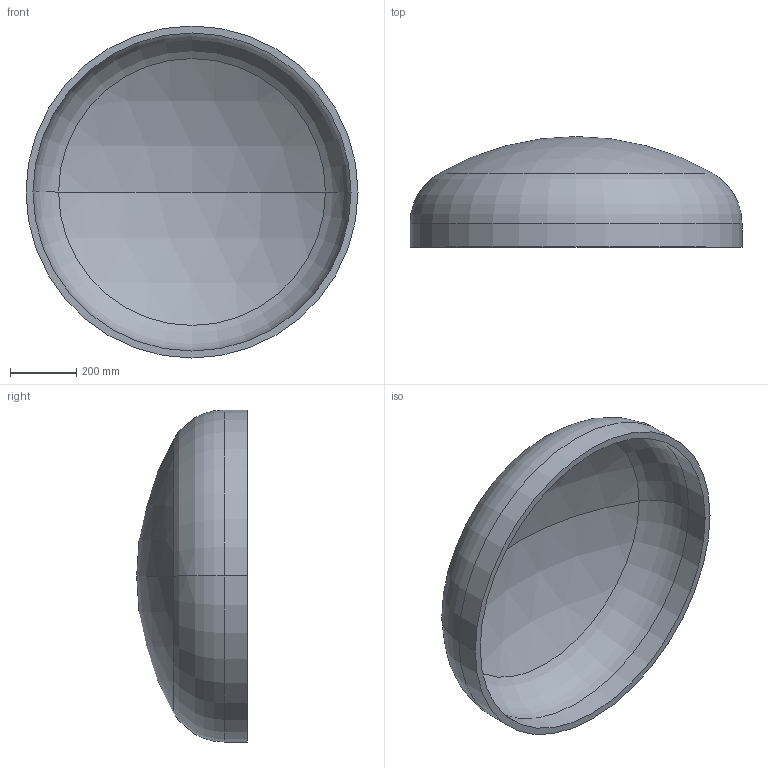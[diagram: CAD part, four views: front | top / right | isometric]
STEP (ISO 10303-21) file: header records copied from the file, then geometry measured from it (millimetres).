
FILE_DESCRIPTION (( 'STEP AP203' ), '1' );
FILE_NAME ('DIN 28013 Korbbogenform_-_Boden DIN 28013 - 1000 x 70 - I - s=21.step', '2016-07-01T08:44:26', ( '' ), ( '' ), 'SwSTEP 2.0', 'SolidWorks 2013', '' );
FILE_SCHEMA (( 'CONFIG_CONTROL_DESIGN' ));
Length unit declared in the file: millimetre
Products named in the file (1): DIN 28013 Korbbogenform_-_Boden DIN 28013 - 1000 x 70 - I - s=21
Bounding box: 1000 x 333.28 x 1000 mm (x, y, z)
Volume: 26770466.5 mm3; surface area: 2615079.1 mm2
Topology: 1 solids, 1 shells, 13 faces, 24 edges, 14 vertices
Faces by surface type: torus 4, cylinder 4, sphere 4, plane 1
Entity records: 407 total; most frequent: DIRECTION 72, CARTESIAN_POINT 52, ORIENTED_EDGE 48, AXIS2_PLACEMENT_3D 34, EDGE_CURVE 24, CIRCLE 20, VERTEX_POINT 14, EDGE_LOOP 14
